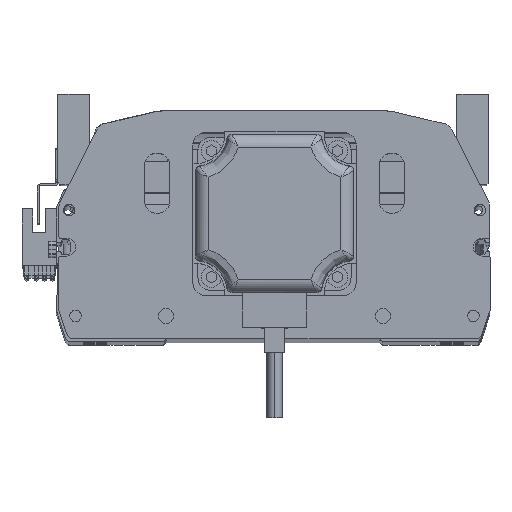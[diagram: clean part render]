
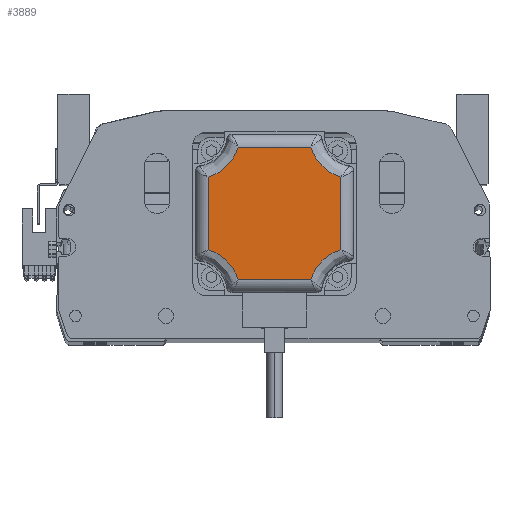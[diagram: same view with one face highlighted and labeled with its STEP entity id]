
A CAD part, top view. The second image highlights one B-rep face of the part: STEP entity #3889.
In plain terms, the highlighted planar face has unit normal (0, 0, 1) as drawn and (0, 0, -1) by its records, which use the part's own axes.
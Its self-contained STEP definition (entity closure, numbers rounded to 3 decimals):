
#655 = CARTESIAN_POINT ( 'NONE',  ( 26., -15.5, -116.5 ) ) ;
#2584 = CARTESIAN_POINT ( 'NONE',  ( -26., 14.229, -116.5 ) ) ;
#2898 = CARTESIAN_POINT ( 'NONE',  ( -26., -14.229, -116.5 ) ) ;
#3199 =( BOUNDED_CURVE ( )  B_SPLINE_CURVE ( 3, ( #35353, #35512, #12593, #32018 ),
 .UNSPECIFIED., .F., .F. ) 
 B_SPLINE_CURVE_WITH_KNOTS ( ( 4, 4 ),
 ( 0., 1. ),
 .UNSPECIFIED. ) 
 CURVE ( )  GEOMETRIC_REPRESENTATION_ITEM ( )  RATIONAL_B_SPLINE_CURVE ( ( 1., 0.92, 0.92, 1. ) ) 
 REPRESENTATION_ITEM ( '' )  );
#3556 = ORIENTED_EDGE ( 'NONE', *, *, #9654, .F. ) ;
#3757 = CARTESIAN_POINT ( 'NONE',  ( -15.5, -26., -116.5 ) ) ;
#3889 = ADVANCED_FACE ( 'NONE', ( #44825 ), #30595, .F. ) ;
#3996 = EDGE_CURVE ( 'NONE', #14800, #16292, #48396, .T. ) ;
#5041 = ORIENTED_EDGE ( 'NONE', *, *, #39289, .F. ) ;
#6032 = LINE ( 'NONE', #15649, #31562 ) ;
#6355 = VERTEX_POINT ( 'NONE', #30289 ) ;
#7050 = CARTESIAN_POINT ( 'NONE',  ( -14.229, 26., -116.5 ) ) ;
#8759 = LINE ( 'NONE', #3757, #9350 ) ;
#9350 = VECTOR ( 'NONE', #22872, 1000. ) ;
#9426 = CARTESIAN_POINT ( 'NONE',  ( 26., 14.229, -116.5 ) ) ;
#9654 = EDGE_CURVE ( 'NONE', #47032, #45035, #21037, .T. ) ;
#10332 = CARTESIAN_POINT ( 'NONE',  ( -14.229, 26., -116.5 ) ) ;
#10599 = VERTEX_POINT ( 'NONE', #13600 ) ;
#12459 = CARTESIAN_POINT ( 'NONE',  ( -26., -14.229, -116.5 ) ) ;
#12593 = CARTESIAN_POINT ( 'NONE',  ( 20.219, -15.953, -116.5 ) ) ;
#13327 = LINE ( 'NONE', #47248, #48351 ) ;
#13403 = AXIS2_PLACEMENT_3D ( 'NONE', #23127, #18652, #49172 ) ;
#13600 = CARTESIAN_POINT ( 'NONE',  ( 14.229, 26., -116.5 ) ) ;
#14361 = CARTESIAN_POINT ( 'NONE',  ( -15.953, -20.219, -116.5 ) ) ;
#14800 = VERTEX_POINT ( 'NONE', #35741 ) ;
#15649 = CARTESIAN_POINT ( 'NONE',  ( -26., 15.5, -116.5 ) ) ;
#16055 = ORIENTED_EDGE ( 'NONE', *, *, #18135, .F. ) ;
#16292 = VERTEX_POINT ( 'NONE', #46254 ) ;
#17563 = CARTESIAN_POINT ( 'NONE',  ( -26., 14.229, -116.5 ) ) ;
#17741 = EDGE_LOOP ( 'NONE', ( #32646, #46391, #5041, #22084, #40974, #16055, #3556, #42656 ) ) ;
#18135 = EDGE_CURVE ( 'NONE', #45035, #6355, #8759, .T. ) ;
#18187 = CARTESIAN_POINT ( 'NONE',  ( -20.219, -15.953, -116.5 ) ) ;
#18652 = DIRECTION ( 'NONE',  ( 0., 0., 1. ) ) ;
#21037 =( BOUNDED_CURVE ( )  B_SPLINE_CURVE ( 3, ( #2898, #18187, #14361, #40762 ),
 .UNSPECIFIED., .F., .F. ) 
 B_SPLINE_CURVE_WITH_KNOTS ( ( 4, 4 ),
 ( 0., 1. ),
 .UNSPECIFIED. ) 
 CURVE ( )  GEOMETRIC_REPRESENTATION_ITEM ( )  RATIONAL_B_SPLINE_CURVE ( ( 1., 0.92, 0.92, 1. ) ) 
 REPRESENTATION_ITEM ( '' )  );
#22084 = ORIENTED_EDGE ( 'NONE', *, *, #3996, .F. ) ;
#22349 = EDGE_CURVE ( 'NONE', #41572, #47032, #6032, .T. ) ;
#22664 =( BOUNDED_CURVE ( )  B_SPLINE_CURVE ( 3, ( #7050, #29808, #48052, #2584 ),
 .UNSPECIFIED., .F., .F. ) 
 B_SPLINE_CURVE_WITH_KNOTS ( ( 4, 4 ),
 ( 0., 1. ),
 .UNSPECIFIED. ) 
 CURVE ( )  GEOMETRIC_REPRESENTATION_ITEM ( )  RATIONAL_B_SPLINE_CURVE ( ( 1., 0.92, 0.92, 1. ) ) 
 REPRESENTATION_ITEM ( '' )  );
#22872 = DIRECTION ( 'NONE',  ( 1., 0., 0. ) ) ;
#23127 = CARTESIAN_POINT ( 'NONE',  ( 0., 0., -116.5 ) ) ;
#27628 = CARTESIAN_POINT ( 'NONE',  ( -14.229, -26., -116.5 ) ) ;
#28891 = CARTESIAN_POINT ( 'NONE',  ( 14.229, 26., -116.5 ) ) ;
#29808 = CARTESIAN_POINT ( 'NONE',  ( -15.953, 20.219, -116.5 ) ) ;
#30289 = CARTESIAN_POINT ( 'NONE',  ( 14.229, -26., -116.5 ) ) ;
#30595 = PLANE ( 'NONE',  #13403 ) ;
#31090 = DIRECTION ( 'NONE',  ( 0., 1., 0. ) ) ;
#31562 = VECTOR ( 'NONE', #35727, 1000. ) ;
#32018 = CARTESIAN_POINT ( 'NONE',  ( 26., -14.229, -116.5 ) ) ;
#32159 = DIRECTION ( 'NONE',  ( -1., 0., 0. ) ) ;
#32646 = ORIENTED_EDGE ( 'NONE', *, *, #41832, .F. ) ;
#35353 = CARTESIAN_POINT ( 'NONE',  ( 14.229, -26., -116.5 ) ) ;
#35512 = CARTESIAN_POINT ( 'NONE',  ( 15.953, -20.219, -116.5 ) ) ;
#35727 = DIRECTION ( 'NONE',  ( 0., -1., 0. ) ) ;
#35741 = CARTESIAN_POINT ( 'NONE',  ( 26., -14.229, -116.5 ) ) ;
#36656 = CARTESIAN_POINT ( 'NONE',  ( 15.953, 20.219, -116.5 ) ) ;
#38900 = VECTOR ( 'NONE', #31090, 1000. ) ;
#39152 = EDGE_CURVE ( 'NONE', #6355, #14800, #3199, .T. ) ;
#39289 = EDGE_CURVE ( 'NONE', #16292, #10599, #43676, .T. ) ;
#40762 = CARTESIAN_POINT ( 'NONE',  ( -14.229, -26., -116.5 ) ) ;
#40974 = ORIENTED_EDGE ( 'NONE', *, *, #39152, .F. ) ;
#41572 = VERTEX_POINT ( 'NONE', #17563 ) ;
#41832 = EDGE_CURVE ( 'NONE', #43829, #41572, #22664, .T. ) ;
#42656 = ORIENTED_EDGE ( 'NONE', *, *, #22349, .F. ) ;
#43676 =( BOUNDED_CURVE ( )  B_SPLINE_CURVE ( 3, ( #9426, #43948, #36656, #28891 ),
 .UNSPECIFIED., .F., .F. ) 
 B_SPLINE_CURVE_WITH_KNOTS ( ( 4, 4 ),
 ( 0., 1. ),
 .UNSPECIFIED. ) 
 CURVE ( )  GEOMETRIC_REPRESENTATION_ITEM ( )  RATIONAL_B_SPLINE_CURVE ( ( 1., 0.92, 0.92, 1. ) ) 
 REPRESENTATION_ITEM ( '' )  );
#43829 = VERTEX_POINT ( 'NONE', #10332 ) ;
#43948 = CARTESIAN_POINT ( 'NONE',  ( 20.219, 15.953, -116.5 ) ) ;
#44825 = FACE_OUTER_BOUND ( 'NONE', #17741, .T. ) ;
#45035 = VERTEX_POINT ( 'NONE', #27628 ) ;
#46254 = CARTESIAN_POINT ( 'NONE',  ( 26., 14.229, -116.5 ) ) ;
#46391 = ORIENTED_EDGE ( 'NONE', *, *, #47419, .F. ) ;
#47032 = VERTEX_POINT ( 'NONE', #12459 ) ;
#47248 = CARTESIAN_POINT ( 'NONE',  ( 15.5, 26., -116.5 ) ) ;
#47419 = EDGE_CURVE ( 'NONE', #10599, #43829, #13327, .T. ) ;
#48052 = CARTESIAN_POINT ( 'NONE',  ( -20.219, 15.953, -116.5 ) ) ;
#48351 = VECTOR ( 'NONE', #32159, 1000. ) ;
#48396 = LINE ( 'NONE', #655, #38900 ) ;
#49172 = DIRECTION ( 'NONE',  ( 1., 0., 0. ) ) ;
